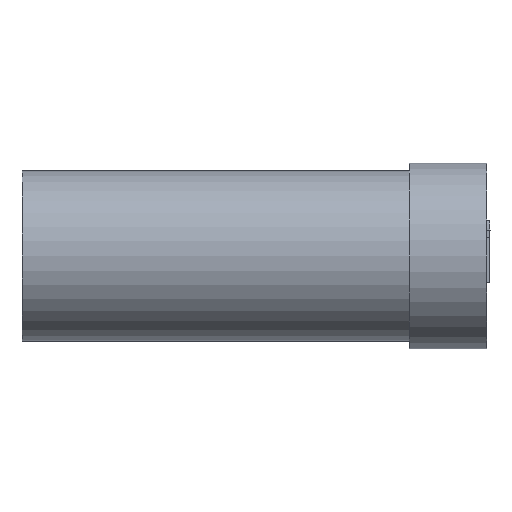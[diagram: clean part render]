
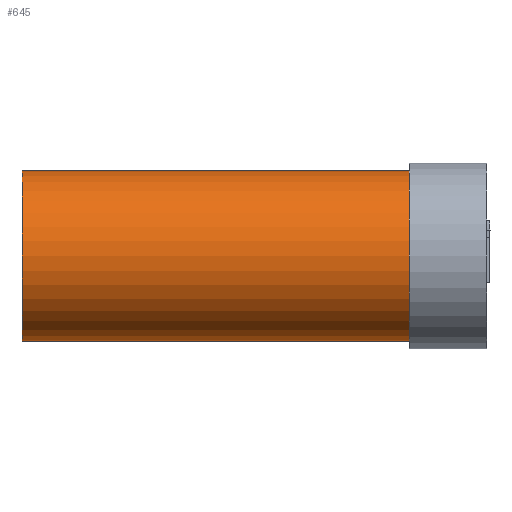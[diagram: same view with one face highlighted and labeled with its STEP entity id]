
A CAD part, left-side view. The second image highlights one B-rep face of the part: STEP entity #645.
In plain terms, the highlighted cylindrical face has radius 5.5 mm (diameter 11 mm), a partial arc.
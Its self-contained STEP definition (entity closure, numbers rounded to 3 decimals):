
#3 = AXIS2_PLACEMENT_3D ( 'NONE', #761, #551, #818 ) ;
#12 = EDGE_CURVE ( 'NONE', #471, #495, #53, .T. ) ;
#14 = AXIS2_PLACEMENT_3D ( 'NONE', #869, #521, #129 ) ;
#36 = CIRCLE ( 'NONE', #3, 5.5 ) ;
#39 = DIRECTION ( 'NONE',  ( 0., -1., 0. ) ) ;
#46 = CARTESIAN_POINT ( 'NONE',  ( 0., 10., 0. ) ) ;
#48 = CARTESIAN_POINT ( 'NONE',  ( 0., -10., -5.5 ) ) ;
#53 = LINE ( 'NONE', #605, #565 ) ;
#65 = EDGE_LOOP ( 'NONE', ( #819, #693, #835, #149 ) ) ;
#78 = CIRCLE ( 'NONE', #14, 5.5 ) ;
#129 = DIRECTION ( 'NONE',  ( 0., 0., 1. ) ) ;
#149 = ORIENTED_EDGE ( 'NONE', *, *, #607, .T. ) ;
#159 = LINE ( 'NONE', #543, #412 ) ;
#259 = VERTEX_POINT ( 'NONE', #48 ) ;
#304 = DIRECTION ( 'NONE',  ( 0., 0., -1. ) ) ;
#400 = CARTESIAN_POINT ( 'NONE',  ( 0., 15., -5.5 ) ) ;
#412 = VECTOR ( 'NONE', #832, 1000. ) ;
#417 = EDGE_CURVE ( 'NONE', #471, #844, #78, .T. ) ;
#441 = AXIS2_PLACEMENT_3D ( 'NONE', #46, #39, #304 ) ;
#458 = CYLINDRICAL_SURFACE ( 'NONE', #441, 5.5 ) ;
#471 = VERTEX_POINT ( 'NONE', #525 ) ;
#495 = VERTEX_POINT ( 'NONE', #792 ) ;
#521 = DIRECTION ( 'NONE',  ( 0., -1., 0. ) ) ;
#525 = CARTESIAN_POINT ( 'NONE',  ( 0., 15., 5.5 ) ) ;
#533 = FACE_OUTER_BOUND ( 'NONE', #65, .T. ) ;
#543 = CARTESIAN_POINT ( 'NONE',  ( 0., 10., -5.5 ) ) ;
#551 = DIRECTION ( 'NONE',  ( 0., 1., 0. ) ) ;
#565 = VECTOR ( 'NONE', #750, 1000. ) ;
#605 = CARTESIAN_POINT ( 'NONE',  ( 0., 10., 5.5 ) ) ;
#607 = EDGE_CURVE ( 'NONE', #259, #495, #36, .T. ) ;
#642 = EDGE_CURVE ( 'NONE', #844, #259, #159, .T. ) ;
#645 = ADVANCED_FACE ( 'NONE', ( #533 ), #458, .T. ) ;
#693 = ORIENTED_EDGE ( 'NONE', *, *, #417, .T. ) ;
#750 = DIRECTION ( 'NONE',  ( 0., -1., 0. ) ) ;
#761 = CARTESIAN_POINT ( 'NONE',  ( 0., -10., 0. ) ) ;
#792 = CARTESIAN_POINT ( 'NONE',  ( 0., -10., 5.5 ) ) ;
#818 = DIRECTION ( 'NONE',  ( 0., 0., -1. ) ) ;
#819 = ORIENTED_EDGE ( 'NONE', *, *, #12, .F. ) ;
#832 = DIRECTION ( 'NONE',  ( 0., -1., 0. ) ) ;
#835 = ORIENTED_EDGE ( 'NONE', *, *, #642, .T. ) ;
#844 = VERTEX_POINT ( 'NONE', #400 ) ;
#869 = CARTESIAN_POINT ( 'NONE',  ( 0., 15., 0. ) ) ;
